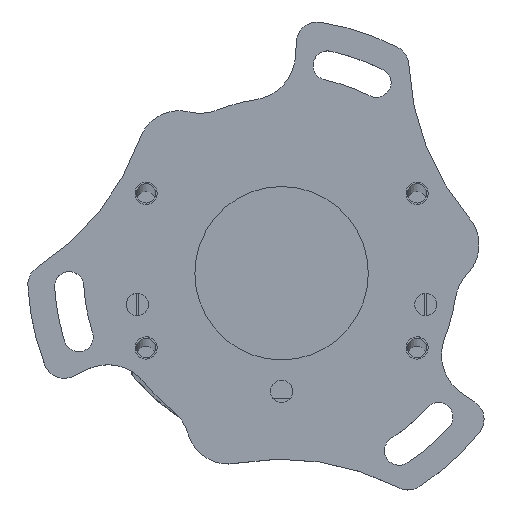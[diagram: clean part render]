
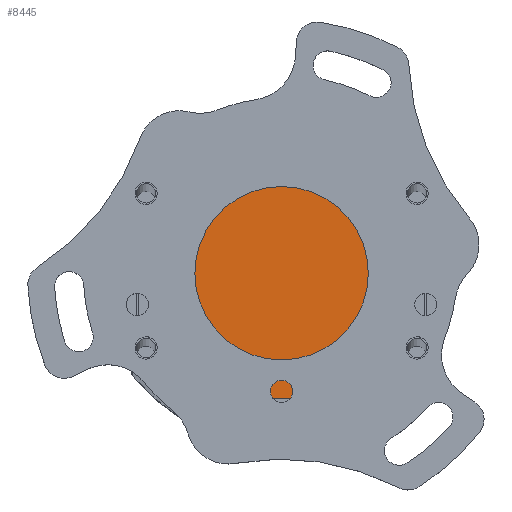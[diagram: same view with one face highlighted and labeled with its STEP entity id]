
A CAD part, top view. The second image highlights one B-rep face of the part: STEP entity #8445.
In plain terms, the highlighted planar face has unit normal (0, 0, 1).
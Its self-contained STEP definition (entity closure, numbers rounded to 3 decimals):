
#8041=CARTESIAN_POINT('',(33.9,36.981,-1341.));
#8042=VERTEX_POINT('',#8041);
#8043=CARTESIAN_POINT('',(33.9,-28.981,-1341.));
#8044=VERTEX_POINT('',#8043);
#8045=CARTESIAN_POINT('',(33.9,36.981,-1341.));
#8046=DIRECTION('',(0.0,-1.0,0.0));
#8047=VECTOR('',#8046,65.962);
#8048=LINE('',#8045,#8047);
#8049=EDGE_CURVE('',#8042,#8044,#8048,.T.);
#8091=CARTESIAN_POINT('',(24.775,-35.7,-1341.));
#8092=VERTEX_POINT('',#8091);
#8093=CARTESIAN_POINT('',(0.,7.5,-1341.));
#8094=DIRECTION('',(0.,0.,-1.0));
#8095=DIRECTION('',(-0.681,0.733,0.));
#8096=AXIS2_PLACEMENT_3D('',#8093,#8094,#8095);
#8097=CIRCLE('',#8096,49.8);
#8098=EDGE_CURVE('',#8044,#8092,#8097,.T.);
#8404=CARTESIAN_POINT('',(-15.565,1.562,-1341.));
#8405=DIRECTION('',(0.0,0.0,-1.0));
#8406=DIRECTION('',(0.0,-1.0,0.0));
#8407=AXIS2_PLACEMENT_3D('',#8404,#8405,#8406);
#8408=PLANE('',#8407);
#8409=CARTESIAN_POINT('',(-33.9,36.981,-1341.));
#8410=VERTEX_POINT('',#8409);
#8411=CARTESIAN_POINT('',(0.,-762.3,-1341.));
#8412=DIRECTION('',(0.,0.,-1.));
#8413=DIRECTION('',(-0.044,0.999,0.));
#8414=AXIS2_PLACEMENT_3D('',#8411,#8412,#8413);
#8415=CIRCLE('',#8414,800.0);
#8416=EDGE_CURVE('',#8410,#8042,#8415,.T.);
#8417=ORIENTED_EDGE('',*,*,#8416,.F.);
#8418=CARTESIAN_POINT('',(-33.9,-28.981,-1341.));
#8419=VERTEX_POINT('',#8418);
#8420=CARTESIAN_POINT('',(-33.9,36.981,-1341.));
#8421=DIRECTION('',(0.0,-1.0,0.0));
#8422=VECTOR('',#8421,65.962);
#8423=LINE('',#8420,#8422);
#8424=EDGE_CURVE('',#8410,#8419,#8423,.T.);
#8425=ORIENTED_EDGE('',*,*,#8424,.T.);
#8426=CARTESIAN_POINT('',(-24.775,-35.7,-1341.));
#8427=VERTEX_POINT('',#8426);
#8428=CARTESIAN_POINT('',(0.,7.5,-1341.));
#8429=DIRECTION('',(0.,0.,1.0));
#8430=DIRECTION('',(0.681,0.733,0.));
#8431=AXIS2_PLACEMENT_3D('',#8428,#8429,#8430);
#8432=CIRCLE('',#8431,49.8);
#8433=EDGE_CURVE('',#8419,#8427,#8432,.T.);
#8434=ORIENTED_EDGE('',*,*,#8433,.T.);
#8435=CARTESIAN_POINT('',(-24.775,-35.7,-1341.));
#8436=DIRECTION('',(1.0,0.0,0.0));
#8437=VECTOR('',#8436,49.55);
#8438=LINE('',#8435,#8437);
#8439=EDGE_CURVE('',#8427,#8092,#8438,.T.);
#8440=ORIENTED_EDGE('',*,*,#8439,.T.);
#8441=ORIENTED_EDGE('',*,*,#8098,.F.);
#8442=ORIENTED_EDGE('',*,*,#8049,.F.);
#8443=EDGE_LOOP('',(#8417,#8425,#8434,#8440,#8441,#8442));
#8444=FACE_OUTER_BOUND('',#8443,.T.);
#8445=ADVANCED_FACE('',(#8444),#8408,.F.);
